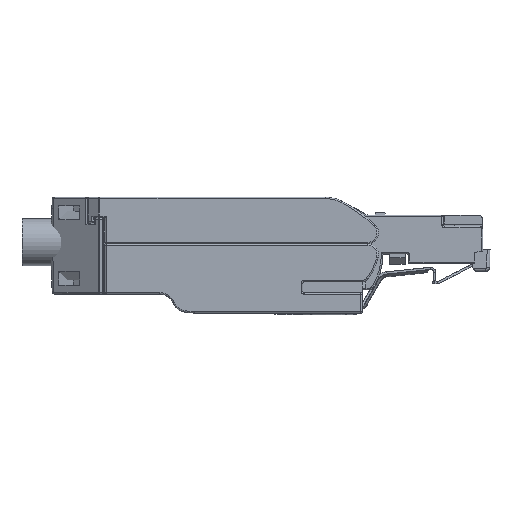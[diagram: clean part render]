
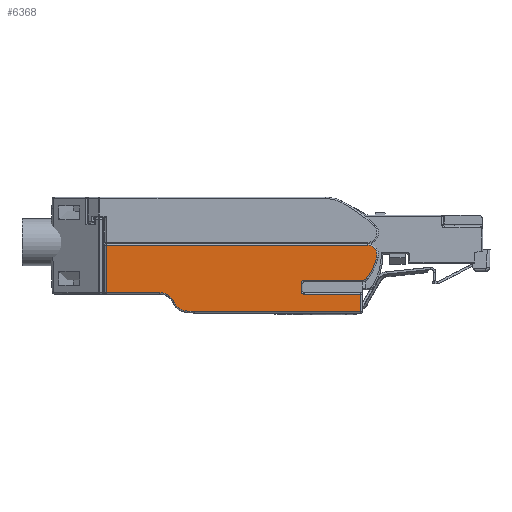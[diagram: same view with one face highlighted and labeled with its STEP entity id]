
A CAD part, left-side view. The second image highlights one B-rep face of the part: STEP entity #6368.
In plain terms, the highlighted planar face has unit normal (-1, 0, 0).
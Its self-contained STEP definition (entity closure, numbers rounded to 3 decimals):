
#6368=ADVANCED_FACE('',(#10592),#8800,.T.);
#8800=PLANE('',#55680);
#10592=FACE_OUTER_BOUND('',#13228,.T.);
#13228=EDGE_LOOP('',(#19103,#19104,#19105,#19106,#19107,#19108,#19109,#19110,
#19111,#19112,#19113,#19114,#19115,#19116,#19117,#19118));
#15888=CIRCLE('',#55672,2.2);
#15889=CIRCLE('',#55673,1.8);
#15890=CIRCLE('',#55674,6.8);
#15891=CIRCLE('',#55675,0.4);
#15892=CIRCLE('',#55676,0.4);
#15893=CIRCLE('',#55677,0.8);
#15894=CIRCLE('',#55678,7.8);
#15895=CIRCLE('',#55679,1.3);
#19103=ORIENTED_EDGE('',*,*,#37391,.F.);
#19104=ORIENTED_EDGE('',*,*,#37392,.F.);
#19105=ORIENTED_EDGE('',*,*,#37393,.F.);
#19106=ORIENTED_EDGE('',*,*,#37394,.T.);
#19107=ORIENTED_EDGE('',*,*,#37395,.T.);
#19108=ORIENTED_EDGE('',*,*,#37396,.T.);
#19109=ORIENTED_EDGE('',*,*,#37397,.F.);
#19110=ORIENTED_EDGE('',*,*,#37398,.T.);
#19111=ORIENTED_EDGE('',*,*,#37399,.F.);
#19112=ORIENTED_EDGE('',*,*,#37400,.T.);
#19113=ORIENTED_EDGE('',*,*,#37401,.F.);
#19114=ORIENTED_EDGE('',*,*,#37402,.F.);
#19115=ORIENTED_EDGE('',*,*,#37403,.F.);
#19116=ORIENTED_EDGE('',*,*,#37404,.T.);
#19117=ORIENTED_EDGE('',*,*,#37405,.T.);
#19118=ORIENTED_EDGE('',*,*,#37406,.T.);
#32391=VERTEX_POINT('',#76694);
#32392=VERTEX_POINT('',#76695);
#32393=VERTEX_POINT('',#76697);
#32394=VERTEX_POINT('',#76699);
#32395=VERTEX_POINT('',#76701);
#32396=VERTEX_POINT('',#76703);
#32397=VERTEX_POINT('',#76705);
#32398=VERTEX_POINT('',#76707);
#32399=VERTEX_POINT('',#76709);
#32400=VERTEX_POINT('',#76711);
#32401=VERTEX_POINT('',#76713);
#32402=VERTEX_POINT('',#76715);
#32403=VERTEX_POINT('',#76717);
#32404=VERTEX_POINT('',#76719);
#32405=VERTEX_POINT('',#76721);
#32406=VERTEX_POINT('',#76723);
#37391=EDGE_CURVE('',#32391,#32392,#15888,.T.);
#37392=EDGE_CURVE('',#32393,#32391,#15889,.T.);
#37393=EDGE_CURVE('',#32394,#32393,#15890,.T.);
#37394=EDGE_CURVE('',#32394,#32395,#45510,.T.);
#37395=EDGE_CURVE('',#32395,#32396,#45511,.T.);
#37396=EDGE_CURVE('',#32396,#32397,#45512,.T.);
#37397=EDGE_CURVE('',#32398,#32397,#15891,.T.);
#37398=EDGE_CURVE('',#32398,#32399,#45513,.T.);
#37399=EDGE_CURVE('',#32400,#32399,#15892,.T.);
#37400=EDGE_CURVE('',#32400,#32401,#45514,.T.);
#37401=EDGE_CURVE('',#32402,#32401,#15893,.T.);
#37402=EDGE_CURVE('',#32403,#32402,#15894,.T.);
#37403=EDGE_CURVE('',#32404,#32403,#15895,.T.);
#37404=EDGE_CURVE('',#32404,#32405,#45515,.T.);
#37405=EDGE_CURVE('',#32405,#32406,#45516,.T.);
#37406=EDGE_CURVE('',#32406,#32392,#45517,.T.);
#45510=LINE('',#76700,#50623);
#45511=LINE('',#76702,#50624);
#45512=LINE('',#76704,#50625);
#45513=LINE('',#76708,#50626);
#45514=LINE('',#76712,#50627);
#45515=LINE('',#76720,#50628);
#45516=LINE('',#76722,#50629);
#45517=LINE('',#76724,#50630);
#50623=VECTOR('',#61291,1.);
#50624=VECTOR('',#61292,1.);
#50625=VECTOR('',#61293,1.);
#50626=VECTOR('',#61296,1.);
#50627=VECTOR('',#61299,1.);
#50628=VECTOR('',#61306,1.);
#50629=VECTOR('',#61307,1.);
#50630=VECTOR('',#61308,1.);
#55672=AXIS2_PLACEMENT_3D('',#76693,#61285,#61286);
#55673=AXIS2_PLACEMENT_3D('',#76696,#61287,#61288);
#55674=AXIS2_PLACEMENT_3D('',#76698,#61289,#61290);
#55675=AXIS2_PLACEMENT_3D('',#76706,#61294,#61295);
#55676=AXIS2_PLACEMENT_3D('',#76710,#61297,#61298);
#55677=AXIS2_PLACEMENT_3D('',#76714,#61300,#61301);
#55678=AXIS2_PLACEMENT_3D('',#76716,#61302,#61303);
#55679=AXIS2_PLACEMENT_3D('',#76718,#61304,#61305);
#55680=AXIS2_PLACEMENT_3D('',#76725,#61309,#61310);
#61285=DIRECTION('',(-1.,0.,0.));
#61286=DIRECTION('',(0.,-0.925,0.381));
#61287=DIRECTION('',(1.,0.,0.));
#61288=DIRECTION('',(0.,0.22,-0.975));
#61289=DIRECTION('',(1.,0.,0.));
#61290=DIRECTION('',(0.,0.,-1.));
#61291=DIRECTION('',(0.,-1.,0.));
#61292=DIRECTION('',(0.,0.,1.));
#61293=DIRECTION('',(0.,1.,0.));
#61294=DIRECTION('',(-1.,0.,0.));
#61295=DIRECTION('',(0.,1.,0.));
#61296=DIRECTION('',(0.,0.,1.));
#61297=DIRECTION('',(-1.,0.,0.));
#61298=DIRECTION('',(0.,0.,1.));
#61299=DIRECTION('',(0.,-1.,0.));
#61300=DIRECTION('',(1.,0.,0.));
#61301=DIRECTION('',(0.,-0.8,-0.6));
#61302=DIRECTION('',(1.,0.,0.));
#61303=DIRECTION('',(0.,-0.973,-0.231));
#61304=DIRECTION('',(1.,0.,0.));
#61305=DIRECTION('',(0.,0.,1.));
#61306=DIRECTION('',(0.,1.,0.));
#61307=DIRECTION('',(0.,0.,-1.));
#61308=DIRECTION('',(0.,-1.,0.));
#61309=DIRECTION('',(-1.,0.,0.));
#61310=DIRECTION('',(0.,1.,0.));
#76693=CARTESIAN_POINT('',(-6.849,23.853,-7.955));
#76694=CARTESIAN_POINT('',(-6.849,21.818,-7.117));
#76695=CARTESIAN_POINT('',(-6.849,23.853,-5.755));
#76696=CARTESIAN_POINT('',(-6.849,20.154,-6.432));
#76697=CARTESIAN_POINT('',(-6.849,20.55,-8.188));
#76698=CARTESIAN_POINT('',(-6.849,19.054,-1.555));
#76699=CARTESIAN_POINT('',(-6.849,19.054,-8.355));
#76700=CARTESIAN_POINT('',(-6.849,19.054,-8.355));
#76701=CARTESIAN_POINT('',(-6.849,-3.746,-8.355));
#76702=CARTESIAN_POINT('',(-6.849,-3.746,-8.355));
#76703=CARTESIAN_POINT('',(-6.849,-3.746,-5.955));
#76704=CARTESIAN_POINT('',(-6.849,-3.746,-5.955));
#76705=CARTESIAN_POINT('',(-6.849,4.054,-5.955));
#76706=CARTESIAN_POINT('',(-6.849,4.054,-5.555));
#76707=CARTESIAN_POINT('',(-6.849,4.454,-5.555));
#76708=CARTESIAN_POINT('',(-6.849,4.454,-5.555));
#76709=CARTESIAN_POINT('',(-6.849,4.454,-4.455));
#76710=CARTESIAN_POINT('',(-6.849,4.054,-4.455));
#76711=CARTESIAN_POINT('',(-6.849,4.054,-4.055));
#76712=CARTESIAN_POINT('',(-6.849,4.054,-4.055));
#76713=CARTESIAN_POINT('',(-6.849,-3.922,-4.055));
#76714=CARTESIAN_POINT('',(-6.849,-3.922,-3.255));
#76715=CARTESIAN_POINT('',(-6.849,-4.562,-3.735));
#76716=CARTESIAN_POINT('',(-6.849,1.678,0.945));
#76717=CARTESIAN_POINT('',(-6.849,-5.911,-0.855));
#76718=CARTESIAN_POINT('',(-6.849,-4.646,-0.555));
#76719=CARTESIAN_POINT('',(-6.849,-4.646,0.745));
#76720=CARTESIAN_POINT('',(-6.849,-4.646,0.745));
#76721=CARTESIAN_POINT('',(-6.849,31.186,0.745));
#76722=CARTESIAN_POINT('',(-6.849,31.186,0.745));
#76723=CARTESIAN_POINT('',(-6.849,31.186,-5.755));
#76724=CARTESIAN_POINT('',(-6.849,31.186,-5.755));
#76725=CARTESIAN_POINT('',(-6.849,30.258,-1.997));
